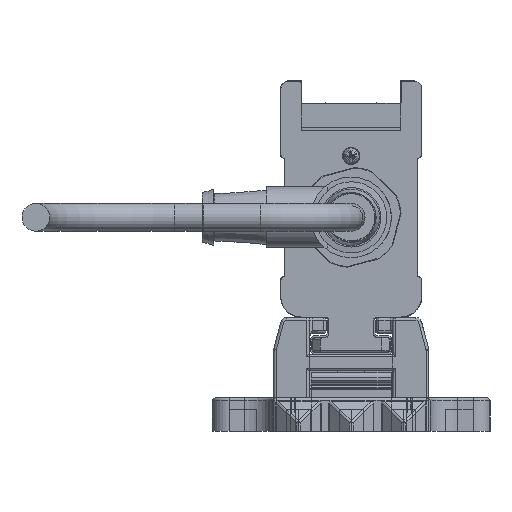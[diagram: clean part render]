
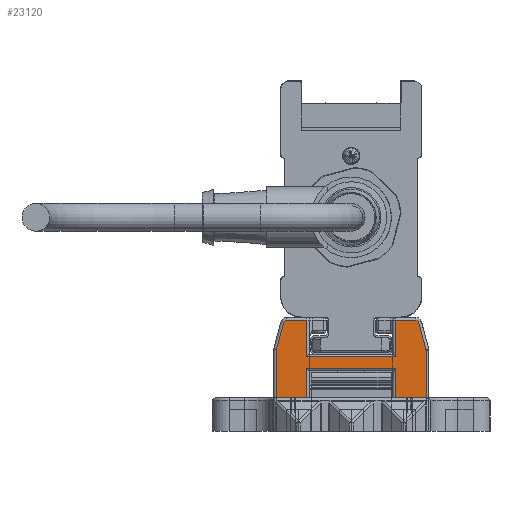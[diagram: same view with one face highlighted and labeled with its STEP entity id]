
A CAD part, left-side view. The second image highlights one B-rep face of the part: STEP entity #23120.
In plain terms, the highlighted planar face has unit normal (-1, 0, 0).
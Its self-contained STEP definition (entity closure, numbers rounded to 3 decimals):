
#23120=ADVANCED_FACE('', (#23130), #23140, .T.);
#117610=AXIS2_PLACEMENT_3D('Ax2Pl3d', #117620, #117630, #117640);
#117850=AXIS2_PLACEMENT_3D('Ax2Pl3d', #117860, #117870, #117880);
#122730=AXIS2_PLACEMENT_3D('Ax2Pl3d', #122740, #122750, #122760);
#127810=AXIS2_PLACEMENT_3D('Ax2Pl3d', #127820, #127830, #127840);
#137490=AXIS2_PLACEMENT_3D('Ax2Pl3d', #137500, #137510, #137520);
#453240=CARTESIAN_POINT('', (-747.669,-2086.345,
331.37));
#117620=CARTESIAN_POINT('HicPkt', (-747.669,-2085.379,
331.111));
#453250=CARTESIAN_POINT('', (-747.669,-2086.379,
331.111));
#453260=CARTESIAN_POINT('', (-747.669,-2085.037,
336.255));
#453280=CARTESIAN_POINT('', (-747.669,-2085.037,
336.255));
#453310=CARTESIAN_POINT('', (-747.669,-2084.554,
336.625));
#117860=CARTESIAN_POINT('HicPkt', (-747.669,-2084.554,
336.125));
#453530=CARTESIAN_POINT('', (-747.669,-2086.379,
322.625));
#453540=CARTESIAN_POINT('', (-747.669,-2080.881,
322.625));
#453550=CARTESIAN_POINT('', (-747.669,-2080.881,
322.625));
#453630=CARTESIAN_POINT('', (-747.669,-2064.881,
322.625));
#453640=CARTESIAN_POINT('', (-747.669,-2059.383,
322.625));
#453650=CARTESIAN_POINT('', (-747.669,-2059.383,
322.625));
#122740=CARTESIAN_POINT('HicPkt', (-747.669,-2061.209,
336.125));
#456120=CARTESIAN_POINT('', (-747.669,-2060.726,
336.255));
#456130=CARTESIAN_POINT('', (-747.669,-2061.209,
336.625));
#456140=CARTESIAN_POINT('', (-747.669,-2080.881,
330.025));
#456150=CARTESIAN_POINT('', (-747.669,-2064.881,
330.025));
#456160=CARTESIAN_POINT('', (-747.669,-2080.881,
330.025));
#456320=CARTESIAN_POINT('', (-747.669,-2080.881,
328.005));
#456330=CARTESIAN_POINT('', (-747.669,-2064.881,328.005)
);
#456340=CARTESIAN_POINT('', (-747.669,-2064.881,328.005)
);
#456350=CARTESIAN_POINT('', (-747.669,-2080.881,
328.005));
#456370=CARTESIAN_POINT('', (-747.669,-2064.881,
322.625));
#456380=CARTESIAN_POINT('', (-747.669,-2064.881,
330.025));
#456390=CARTESIAN_POINT('', (-747.669,-2064.881,
336.625));
#457240=CARTESIAN_POINT('', (-747.669,-2064.881,
336.625));
#457250=CARTESIAN_POINT('', (-747.669,-2060.726,
336.255));
#457260=CARTESIAN_POINT('', (-747.669,-2059.417,
331.37));
#457450=CARTESIAN_POINT('', (-747.669,-2059.383,
331.111));
#457460=CARTESIAN_POINT('', (-747.669,-2059.383,
331.111));
#127820=CARTESIAN_POINT('HicPkt', (-747.669,-2060.383,
331.111));
#458270=CARTESIAN_POINT('', (-747.669,-2086.379,
331.111));
#137500=CARTESIAN_POINT('HicPkt', (-747.669,-2084.554,
336.625));
#460070=CARTESIAN_POINT('', (-747.669,-2080.881,
336.625));
#460080=CARTESIAN_POINT('', (-747.669,-2080.881,
336.625));
#460090=CARTESIAN_POINT('', (-747.669,-2080.881,
336.625));
#522140=CIRCLE('Circle', #117610, 1.);
#522180=CIRCLE('Circle', #117850, 0.5);
#522760=CIRCLE('Circle', #122730, 0.5);
#523290=CIRCLE('Circle', #127810, 1.);
#117630=DIRECTION('Axis', (-1.,0.,
0.));
#117640=DIRECTION('RefDirection', (0.,
0.,-1.));
#730180=DIRECTION('', (0.,0.259,
0.966));
#117870=DIRECTION('Axis', (-1.,0.,
0.));
#117880=DIRECTION('RefDirection', (0.,
0.,-1.));
#730290=DIRECTION('', (0.,1.,0.));
#730330=DIRECTION('', (0.,1.,0.));
#122750=DIRECTION('Axis', (1.,0.,
0.));
#122760=DIRECTION('RefDirection', (0.,
0.,-1.));
#731520=DIRECTION('', (0.,-1.,0.));
#731620=DIRECTION('', (0.,1.,0.));
#731630=DIRECTION('', (0.,0.,1.));
#731650=DIRECTION('', (0.,0.,-1.));
#731660=DIRECTION('', (0.,0.,-1.));
#732090=DIRECTION('', (0.,-1.,0.));
#732100=DIRECTION('', (0.,-0.259,0.966));
#732190=DIRECTION('', (0.,0.,1.));
#127830=DIRECTION('Axis', (1.,0.,
0.));
#127840=DIRECTION('RefDirection', (0.,
0.,-1.));
#732560=DIRECTION('', (0.,0.,1.));
#137510=DIRECTION('Axis', (-1.,0.,
0.));
#137520=DIRECTION('RefDirection', (0.,
0.,-1.));
#733400=DIRECTION('', (0.,1.,0.));
#733410=DIRECTION('', (0.,0.,1.));
#785930=EDGE_CURVE('', #785940, #785920, #522140, .T.);
#785990=EDGE_CURVE('', #785920, #785970, #786000, .T.);
#786060=EDGE_CURVE('', #785970, #786050, #522180, .T.);
#786510=EDGE_CURVE('', #786500, #786520, #786530, .T.);
#786670=EDGE_CURVE('', #786660, #786680, #786690, .T.);
#791030=EDGE_CURVE('', #791040, #791050, #522760, .T.);
#791080=EDGE_CURVE('', #791090, #791100, #791110, .T.);
#791450=EDGE_CURVE('', #791430, #791460, #791470, .T.);
#791500=EDGE_CURVE('', #786520, #791430, #791510, .T.);
#791540=EDGE_CURVE('', #791460, #786660, #791550, .T.);
#791560=EDGE_CURVE('', #791570, #791090, #791580, .T.);
#793400=EDGE_CURVE('', #791050, #791570, #793410, .T.);
#793470=EDGE_CURVE('', #793480, #791040, #793490, .T.);
#793910=EDGE_CURVE('', #786680, #793920, #793930, .T.);
#793950=EDGE_CURVE('', #793920, #793480, #523290, .T.);
#795660=EDGE_CURVE('', #786500, #785940, #795670, .T.);
#799470=EDGE_CURVE('', #786050, #799480, #799490, .T.);
#799500=EDGE_CURVE('', #791100, #799480, #799510, .T.);
#950330=EDGE_LOOP('Edge_loop', (#950340,#950350,#950360,#950370,#950380,
#950390,#950400,#950410,#950420,#950430,#950440,#950450,#950460,#950470,
#950480,#950490,#950500,#950510));
#23130=FACE_OUTER_BOUND('Face_outer_bound', #950330, .T.);
#786000=LINE('Line', #453280, #1078570);
#786530=LINE('Line', #453540, #1078680);
#786690=LINE('Line', #453640, #1078720);
#791110=LINE('Line', #456140, #1079910);
#791470=LINE('Line', #456330, #1080010);
#791510=LINE('Line', #456350, #1080020);
#791550=LINE('Line', #456370, #1080040);
#791580=LINE('Line', #456380, #1080050);
#793410=LINE('Line', #457240, #1080480);
#793490=LINE('Line', #457250, #1080490);
#793930=LINE('Line', #457450, #1080580);
#795670=LINE('Line', #458270, #1080950);
#799490=LINE('Line', #460070, #1081790);
#799510=LINE('Line', #460090, #1081800);
#950340=ORIENTED_EDGE('', *, *, #799470, .T.);
#950350=ORIENTED_EDGE('', *, *, #799500, .F.);
#950360=ORIENTED_EDGE('', *, *, #791080, .F.);
#950370=ORIENTED_EDGE('', *, *, #791560, .F.);
#950380=ORIENTED_EDGE('', *, *, #793400, .F.);
#950390=ORIENTED_EDGE('', *, *, #791030, .F.);
#950400=ORIENTED_EDGE('', *, *, #793470, .F.);
#950410=ORIENTED_EDGE('', *, *, #793950, .F.);
#950420=ORIENTED_EDGE('', *, *, #793910, .F.);
#950430=ORIENTED_EDGE('', *, *, #786670, .F.);
#950440=ORIENTED_EDGE('', *, *, #791540, .F.);
#950450=ORIENTED_EDGE('', *, *, #791450, .F.);
#950460=ORIENTED_EDGE('', *, *, #791500, .F.);
#950470=ORIENTED_EDGE('', *, *, #786510, .F.);
#950480=ORIENTED_EDGE('', *, *, #795660, .T.);
#950490=ORIENTED_EDGE('', *, *, #785930, .T.);
#950500=ORIENTED_EDGE('', *, *, #785990, .T.);
#950510=ORIENTED_EDGE('', *, *, #786060, .T.);
#23140=PLANE('Plane', #137490);
#1078570=VECTOR('', #730180, 5.057);
#1078680=VECTOR('', #730290, 5.498);
#1078720=VECTOR('', #730330, 5.498);
#1079910=VECTOR('', #731520, 16.);
#1080010=VECTOR('', #731620, 16.);
#1080020=VECTOR('', #731630, 5.38);
#1080040=VECTOR('', #731650, 5.38);
#1080050=VECTOR('', #731660, 6.6);
#1080480=VECTOR('', #732090, 3.672);
#1080490=VECTOR('', #732100, 5.057);
#1080580=VECTOR('', #732190, 8.486);
#1080950=VECTOR('', #732560, 8.486);
#1081790=VECTOR('', #733400, 3.672);
#1081800=VECTOR('', #733410, 6.6);
#785920=VERTEX_POINT('', #453240);
#785940=VERTEX_POINT('', #453250);
#785970=VERTEX_POINT('', #453260);
#786050=VERTEX_POINT('', #453310);
#786500=VERTEX_POINT('', #453530);
#786520=VERTEX_POINT('', #453550);
#786660=VERTEX_POINT('', #453630);
#786680=VERTEX_POINT('', #453650);
#791040=VERTEX_POINT('', #456120);
#791050=VERTEX_POINT('', #456130);
#791090=VERTEX_POINT('', #456150);
#791100=VERTEX_POINT('', #456160);
#791430=VERTEX_POINT('', #456320);
#791460=VERTEX_POINT('', #456340);
#791570=VERTEX_POINT('', #456390);
#793480=VERTEX_POINT('', #457260);
#793920=VERTEX_POINT('', #457460);
#799480=VERTEX_POINT('', #460080);
